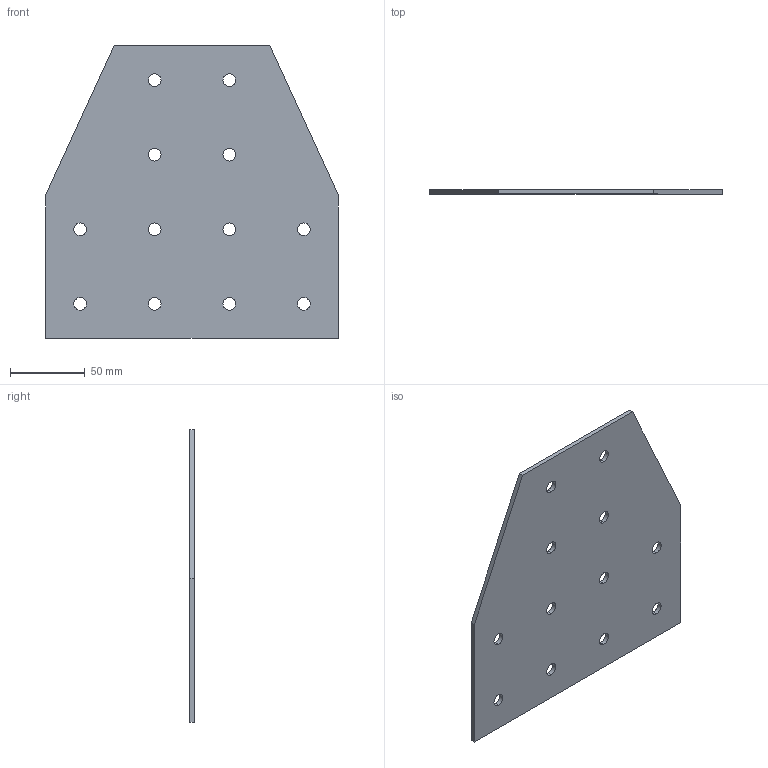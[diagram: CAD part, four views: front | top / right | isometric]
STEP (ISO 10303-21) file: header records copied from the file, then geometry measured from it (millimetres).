
FILE_DESCRIPTION (( 'STEP AP203' ), '1' );
FILE_NAME ('ﾒ-12-ﾓ-50.STEP', '2017-03-23T09:45:09', ( 'RosInstal-MKM' ), ( '' ), 'SwSTEP 2.0', 'SolidWorks 2014', '' );
FILE_SCHEMA (( 'CONFIG_CONTROL_DESIGN' ));
Length unit declared in the file: millimetre
Products named in the file (1): ﾒ-12-ﾓ-50
Bounding box: 196 x 3 x 196 mm (x, y, z)
Volume: 99448 mm3; surface area: 69396.9 mm2
Topology: 1 solids, 1 shells, 32 faces, 90 edges, 60 vertices
Faces by surface type: cylinder 24, plane 8
Entity records: 1187 total; most frequent: DIRECTION 204, CARTESIAN_POINT 183, ORIENTED_EDGE 180, EDGE_CURVE 90, AXIS2_PLACEMENT_3D 81, VERTEX_POINT 60, EDGE_LOOP 56, CIRCLE 48
